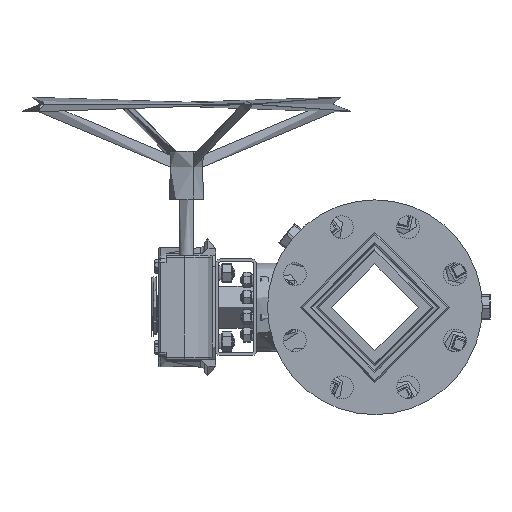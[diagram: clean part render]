
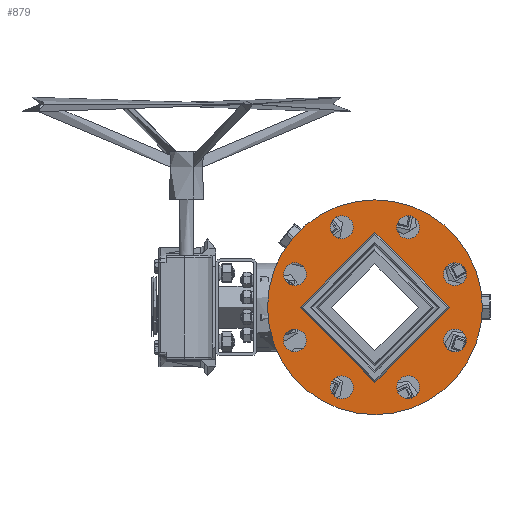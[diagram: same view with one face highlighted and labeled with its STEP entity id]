
A CAD part, left-side view. The second image highlights one B-rep face of the part: STEP entity #879.
In plain terms, the highlighted planar face has unit normal (-1, 0, 0).
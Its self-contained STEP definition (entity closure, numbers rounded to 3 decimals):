
#879=ADVANCED_FACE('',(#31375,#31377,#31379,#31381,#31383,#31385,#31387,#31389,#31391,
#31393),#31395,.T.);
#31375=FACE_BOUND('',#31376,.T.);
#31376=EDGE_LOOP('',(#47197));
#31377=FACE_BOUND('',#31378,.T.);
#31378=EDGE_LOOP('',(#47198));
#31379=FACE_BOUND('',#31380,.T.);
#31380=EDGE_LOOP('',(#47199));
#31381=FACE_BOUND('',#31382,.T.);
#31382=EDGE_LOOP('',(#47200));
#31383=FACE_BOUND('',#31384,.T.);
#31384=EDGE_LOOP('',(#47201));
#31385=FACE_BOUND('',#31386,.T.);
#31386=EDGE_LOOP('',(#47202));
#31387=FACE_BOUND('',#31388,.T.);
#31388=EDGE_LOOP('',(#47203));
#31389=FACE_BOUND('',#31390,.T.);
#31390=EDGE_LOOP('',(#47204));
#31391=FACE_BOUND('',#31392,.T.);
#31392=EDGE_LOOP('',(#47205));
#31393=FACE_OUTER_BOUND('',#31394,.T.);
#31394=EDGE_LOOP('',(#47206));
#31395=PLANE('',#31396);
#31396=AXIS2_PLACEMENT_3D('',#31397,#31398,#31399);
#31397=CARTESIAN_POINT('',(-251.,0.,0.));
#31398=DIRECTION('',(-1.,0.,0.));
#31399=DIRECTION('',(0.,1.,0.));
#47197=ORIENTED_EDGE('',*,*,#85690,.T.);
#47198=ORIENTED_EDGE('',*,*,#85430,.T.);
#47199=ORIENTED_EDGE('',*,*,#85691,.T.);
#47200=ORIENTED_EDGE('',*,*,#85692,.T.);
#47201=ORIENTED_EDGE('',*,*,#85693,.T.);
#47202=ORIENTED_EDGE('',*,*,#85694,.T.);
#47203=ORIENTED_EDGE('',*,*,#85695,.T.);
#47204=ORIENTED_EDGE('',*,*,#85696,.T.);
#47205=ORIENTED_EDGE('',*,*,#85697,.T.);
#47206=ORIENTED_EDGE('',*,*,#85698,.F.);
#85430=EDGE_CURVE('',#90146,#90146,#90148,.T.);
#85690=EDGE_CURVE('',#90579,#90579,#90580,.F.);
#85691=EDGE_CURVE('',#90581,#90581,#90582,.F.);
#85692=EDGE_CURVE('',#90583,#90583,#90584,.F.);
#85693=EDGE_CURVE('',#90585,#90585,#90586,.F.);
#85694=EDGE_CURVE('',#90587,#90587,#90588,.F.);
#85695=EDGE_CURVE('',#90589,#90589,#90590,.F.);
#85696=EDGE_CURVE('',#90591,#90591,#90592,.F.);
#85697=EDGE_CURVE('',#90593,#90593,#90594,.F.);
#85698=EDGE_CURVE('',#90595,#90595,#90596,.T.);
#90146=VERTEX_POINT('',#118027);
#90148=CIRCLE('',#118031,108.);
#90579=VERTEX_POINT('',#122534);
#90580=CIRCLE('',#122535,16.5);
#90581=VERTEX_POINT('',#122539);
#90582=CIRCLE('',#122540,16.5);
#90583=VERTEX_POINT('',#122544);
#90584=CIRCLE('',#122545,16.5);
#90585=VERTEX_POINT('',#122549);
#90586=CIRCLE('',#122550,16.5);
#90587=VERTEX_POINT('',#122554);
#90588=CIRCLE('',#122555,16.5);
#90589=VERTEX_POINT('',#122559);
#90590=CIRCLE('',#122560,16.5);
#90591=VERTEX_POINT('',#122564);
#90592=CIRCLE('',#122565,16.5);
#90593=VERTEX_POINT('',#122569);
#90594=CIRCLE('',#122570,16.5);
#90595=VERTEX_POINT('',#122574);
#90596=CIRCLE('',#122575,155.);
#118027=CARTESIAN_POINT('',(-251.,108.,0.));
#118031=AXIS2_PLACEMENT_3D('',#118032,#118033,#118034);
#118032=CARTESIAN_POINT('',(-251.,0.,0.));
#118033=DIRECTION('',(1.,-0.,-0.));
#118034=DIRECTION('',(0.,1.,0.));
#122534=CARTESIAN_POINT('',(-251.,-115.485,-64.335));
#122535=AXIS2_PLACEMENT_3D('',#122536,#122537,#122538);
#122536=CARTESIAN_POINT('',(-251.,-115.485,-47.835));
#122537=DIRECTION('',(-1.,0.,0.));
#122538=DIRECTION('',(0.,0.,-1.));
#122539=CARTESIAN_POINT('',(-251.,-36.168,-127.152));
#122540=AXIS2_PLACEMENT_3D('',#122541,#122542,#122543);
#122541=CARTESIAN_POINT('',(-251.,-47.835,-115.485));
#122542=DIRECTION('',(-1.,0.,0.));
#122543=DIRECTION('',(0.,0.707,-0.707));
#122544=CARTESIAN_POINT('',(-251.,64.335,-115.485));
#122545=AXIS2_PLACEMENT_3D('',#122546,#122547,#122548);
#122546=CARTESIAN_POINT('',(-251.,47.835,-115.485));
#122547=DIRECTION('',(-1.,0.,0.));
#122548=DIRECTION('',(0.,1.,0.));
#122549=CARTESIAN_POINT('',(-251.,127.152,-36.168));
#122550=AXIS2_PLACEMENT_3D('',#122551,#122552,#122553);
#122551=CARTESIAN_POINT('',(-251.,115.485,-47.835));
#122552=DIRECTION('',(-1.,0.,0.));
#122553=DIRECTION('',(0.,0.707,0.707));
#122554=CARTESIAN_POINT('',(-251.,115.485,64.335));
#122555=AXIS2_PLACEMENT_3D('',#122556,#122557,#122558);
#122556=CARTESIAN_POINT('',(-251.,115.485,47.835));
#122557=DIRECTION('',(-1.,0.,0.));
#122558=DIRECTION('',(0.,0.,1.));
#122559=CARTESIAN_POINT('',(-251.,36.168,127.152));
#122560=AXIS2_PLACEMENT_3D('',#122561,#122562,#122563);
#122561=CARTESIAN_POINT('',(-251.,47.835,115.485));
#122562=DIRECTION('',(-1.,0.,0.));
#122563=DIRECTION('',(-0.,-0.707,0.707));
#122564=CARTESIAN_POINT('',(-251.,-64.335,115.485));
#122565=AXIS2_PLACEMENT_3D('',#122566,#122567,#122568);
#122566=CARTESIAN_POINT('',(-251.,-47.835,115.485));
#122567=DIRECTION('',(-1.,0.,0.));
#122568=DIRECTION('',(0.,-1.,-0.));
#122569=CARTESIAN_POINT('',(-251.,-127.152,36.168));
#122570=AXIS2_PLACEMENT_3D('',#122571,#122572,#122573);
#122571=CARTESIAN_POINT('',(-251.,-115.485,47.835));
#122572=DIRECTION('',(-1.,0.,0.));
#122573=DIRECTION('',(0.,-0.707,-0.707));
#122574=CARTESIAN_POINT('',(-251.,155.,0.));
#122575=AXIS2_PLACEMENT_3D('',#122576,#122577,#122578);
#122576=CARTESIAN_POINT('',(-251.,0.,0.));
#122577=DIRECTION('',(1.,-0.,-0.));
#122578=DIRECTION('',(0.,1.,0.));
